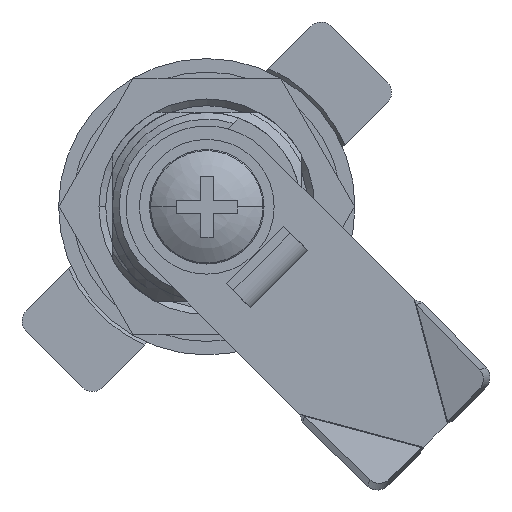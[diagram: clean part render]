
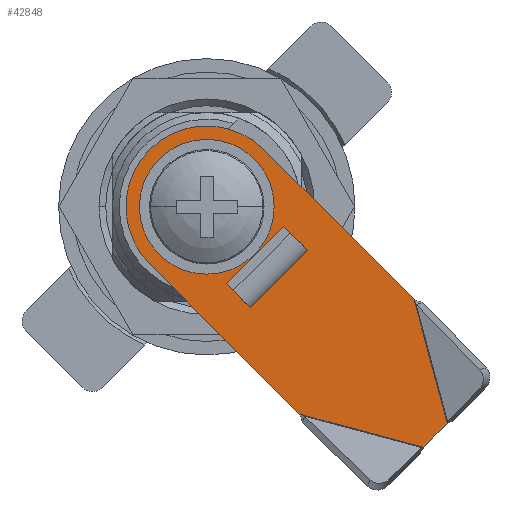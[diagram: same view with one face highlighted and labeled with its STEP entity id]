
A CAD part, front view. The second image highlights one B-rep face of the part: STEP entity #42848.
In plain terms, the highlighted planar face has unit normal (0, -1, 0) as drawn and (0, 0, -1) by its records, which use the part's own axes.
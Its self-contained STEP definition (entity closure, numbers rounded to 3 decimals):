
#42269=DIRECTION('',(-0.866,-0.5,0.));
#42270=VECTOR('',#42269,9.506);
#42271=CARTESIAN_POINT('',(24.,-1.247,-1.));
#42272=LINE('',#42271,#42270);
#42273=DIRECTION('',(0.,1.,0.));
#42274=VECTOR('',#42273,2.494);
#42275=CARTESIAN_POINT('',(24.,-1.247,-1.));
#42276=LINE('',#42275,#42274);
#42277=DIRECTION('',(-0.866,0.5,0.));
#42278=VECTOR('',#42277,9.506);
#42279=CARTESIAN_POINT('',(24.,1.247,-1.));
#42280=LINE('',#42279,#42278);
#42281=DIRECTION('',(-1.,0.,0.));
#42282=VECTOR('',#42281,15.768);
#42283=CARTESIAN_POINT('',(15.768,6.,-1.));
#42284=LINE('',#42283,#42282);
#42285=CARTESIAN_POINT('',(0.,0.,-1.));
#42286=DIRECTION('',(0.,0.,1.));
#42287=DIRECTION('',(0.,1.,0.));
#42288=AXIS2_PLACEMENT_3D('',#42285,#42286,#42287);
#42290=DIRECTION('',(1.,0.,0.));
#42291=VECTOR('',#42290,15.768);
#42292=CARTESIAN_POINT('',(0.,-6.,-1.));
#42293=LINE('',#42292,#42291);
#42294=DIRECTION('',(1.,0.,0.));
#42295=VECTOR('',#42294,6.1);
#42296=CARTESIAN_POINT('',(-3.05,3.05,-1.));
#42297=LINE('',#42296,#42295);
#42298=DIRECTION('',(0.,-1.,0.));
#42299=VECTOR('',#42298,6.1);
#42300=CARTESIAN_POINT('',(3.05,3.05,-1.));
#42301=LINE('',#42300,#42299);
#42302=DIRECTION('',(-1.,0.,0.));
#42303=VECTOR('',#42302,6.1);
#42304=CARTESIAN_POINT('',(3.05,-3.05,-1.));
#42305=LINE('',#42304,#42303);
#42306=DIRECTION('',(0.,1.,0.));
#42307=VECTOR('',#42306,6.1);
#42308=CARTESIAN_POINT('',(-3.05,-3.05,-1.));
#42309=LINE('',#42308,#42307);
#42310=DIRECTION('',(-1.,0.,0.));
#42311=VECTOR('',#42310,2.5);
#42312=CARTESIAN_POINT('',(7.55,3.,-1.));
#42313=LINE('',#42312,#42311);
#42314=DIRECTION('',(0.,1.,0.));
#42315=VECTOR('',#42314,6.);
#42316=CARTESIAN_POINT('',(7.55,-3.,-1.));
#42317=LINE('',#42316,#42315);
#42318=DIRECTION('',(-1.,0.,0.));
#42319=VECTOR('',#42318,2.5);
#42320=CARTESIAN_POINT('',(7.55,-3.,-1.));
#42321=LINE('',#42320,#42319);
#42322=DIRECTION('',(0.,-1.,0.));
#42323=VECTOR('',#42322,6.);
#42324=CARTESIAN_POINT('',(5.05,3.,-1.));
#42325=LINE('',#42324,#42323);
#42441=CARTESIAN_POINT('',(24.,1.247,-1.));
#42609=CARTESIAN_POINT('',(0.,6.,-1.));
#42610=CARTESIAN_POINT('',(0.,-6.,-1.));
#42611=VERTEX_POINT('',#42609);
#42612=VERTEX_POINT('',#42610);
#42617=CARTESIAN_POINT('',(-3.05,3.05,-1.));
#42618=CARTESIAN_POINT('',(3.05,3.05,-1.));
#42619=VERTEX_POINT('',#42617);
#42620=VERTEX_POINT('',#42618);
#42621=CARTESIAN_POINT('',(-3.05,-3.05,-1.));
#42622=VERTEX_POINT('',#42621);
#42623=CARTESIAN_POINT('',(3.05,-3.05,-1.));
#42624=VERTEX_POINT('',#42623);
#42627=CARTESIAN_POINT('',(15.768,6.,-1.));
#42628=VERTEX_POINT('',#42627);
#42637=VERTEX_POINT('',#42441);
#42642=CARTESIAN_POINT('',(15.768,-6.,-1.));
#42643=VERTEX_POINT('',#42642);
#42646=CARTESIAN_POINT('',(24.,-1.247,-1.));
#42647=VERTEX_POINT('',#42646);
#42664=CARTESIAN_POINT('',(7.55,3.,-1.));
#42665=CARTESIAN_POINT('',(5.05,3.,-1.));
#42666=VERTEX_POINT('',#42664);
#42667=VERTEX_POINT('',#42665);
#42668=CARTESIAN_POINT('',(7.55,-3.,-1.));
#42669=CARTESIAN_POINT('',(5.05,-3.,-1.));
#42670=VERTEX_POINT('',#42668);
#42671=VERTEX_POINT('',#42669);
#42810=CARTESIAN_POINT('',(0.,0.,-1.));
#42811=DIRECTION('',(0.,0.,1.));
#42812=DIRECTION('',(1.,0.,0.));
#42813=AXIS2_PLACEMENT_3D('',#42810,#42811,#42812);
#42814=PLANE('',#42813);
#42815=ORIENTED_EDGE('',*,*,#42803,.F.);
#42817=ORIENTED_EDGE('',*,*,#42816,.T.);
#42819=ORIENTED_EDGE('',*,*,#42818,.T.);
#42821=ORIENTED_EDGE('',*,*,#42820,.T.);
#42823=ORIENTED_EDGE('',*,*,#42822,.T.);
#42825=ORIENTED_EDGE('',*,*,#42824,.T.);
#42826=EDGE_LOOP('',(#42815,#42817,#42819,#42821,#42823,#42825));
#42827=FACE_OUTER_BOUND('',#42826,.F.);
#42829=ORIENTED_EDGE('',*,*,#42828,.T.);
#42831=ORIENTED_EDGE('',*,*,#42830,.T.);
#42833=ORIENTED_EDGE('',*,*,#42832,.T.);
#42835=ORIENTED_EDGE('',*,*,#42834,.T.);
#42836=EDGE_LOOP('',(#42829,#42831,#42833,#42835));
#42837=FACE_BOUND('',#42836,.F.);
#42839=ORIENTED_EDGE('',*,*,#42838,.F.);
#42841=ORIENTED_EDGE('',*,*,#42840,.F.);
#42843=ORIENTED_EDGE('',*,*,#42842,.T.);
#42845=ORIENTED_EDGE('',*,*,#42844,.F.);
#42846=EDGE_LOOP('',(#42839,#42841,#42843,#42845));
#42847=FACE_BOUND('',#42846,.F.);
#42848=ADVANCED_FACE('',(#42827,#42837,#42847),#42814,.F.);
#42289=CIRCLE('',#42288,6.);
#42803=EDGE_CURVE('',#42647,#42643,#42272,.T.);
#42816=EDGE_CURVE('',#42647,#42637,#42276,.T.);
#42818=EDGE_CURVE('',#42637,#42628,#42280,.T.);
#42820=EDGE_CURVE('',#42628,#42611,#42284,.T.);
#42822=EDGE_CURVE('',#42611,#42612,#42289,.T.);
#42824=EDGE_CURVE('',#42612,#42643,#42293,.T.);
#42828=EDGE_CURVE('',#42619,#42620,#42297,.T.);
#42830=EDGE_CURVE('',#42620,#42624,#42301,.T.);
#42832=EDGE_CURVE('',#42624,#42622,#42305,.T.);
#42834=EDGE_CURVE('',#42622,#42619,#42309,.T.);
#42838=EDGE_CURVE('',#42666,#42667,#42313,.T.);
#42840=EDGE_CURVE('',#42670,#42666,#42317,.T.);
#42842=EDGE_CURVE('',#42670,#42671,#42321,.T.);
#42844=EDGE_CURVE('',#42667,#42671,#42325,.T.);
